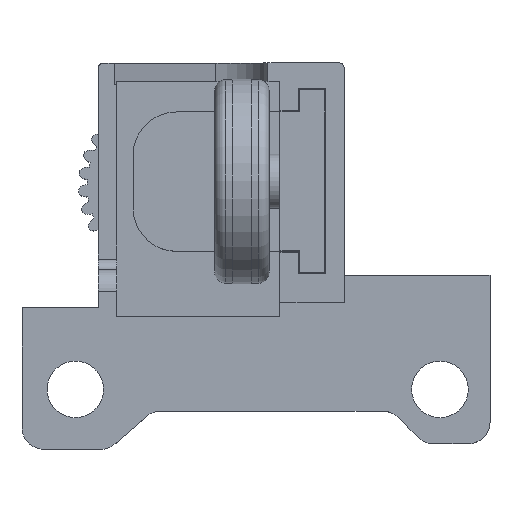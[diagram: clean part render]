
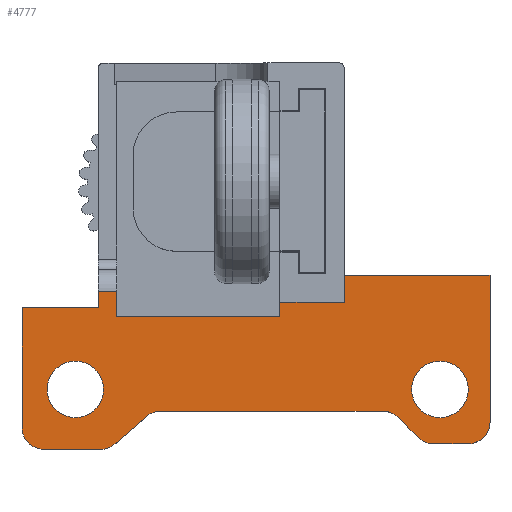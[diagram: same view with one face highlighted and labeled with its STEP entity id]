
A CAD part, top view. The second image highlights one B-rep face of the part: STEP entity #4777.
In plain terms, the highlighted planar face has unit normal (0, 0, 1).
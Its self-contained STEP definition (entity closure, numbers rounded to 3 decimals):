
#35=LINE('',#7300,#391);
#67=LINE('',#7372,#423);
#83=LINE('',#7407,#439);
#85=LINE('',#7414,#441);
#89=LINE('',#7425,#445);
#96=LINE('',#7444,#452);
#100=LINE('',#7456,#456);
#104=LINE('',#7468,#460);
#108=LINE('',#7480,#464);
#112=LINE('',#7492,#468);
#116=LINE('',#7504,#472);
#121=LINE('',#7519,#477);
#154=LINE('',#7604,#510);
#165=LINE('',#7627,#521);
#189=LINE('',#7788,#545);
#200=LINE('',#7814,#556);
#391=VECTOR('',#5642,1.3);
#423=VECTOR('',#5700,2.3);
#439=VECTOR('',#5728,1.7);
#441=VECTOR('',#5736,5.9);
#445=VECTOR('',#5744,7.);
#452=VECTOR('',#5757,13.5);
#456=VECTOR('',#5769,3.172);
#460=VECTOR('',#5781,2.586);
#464=VECTOR('',#5793,20.42);
#468=VECTOR('',#5805,3.812);
#472=VECTOR('',#5817,5.249);
#477=VECTOR('',#5832,11.);
#510=VECTOR('',#5895,2.5);
#521=VECTOR('',#5916,1.5);
#545=VECTOR('',#6154,15.);
#556=VECTOR('',#6187,13.4);
#938=FACE_BOUND('',#1350,.T.);
#939=FACE_BOUND('',#1351,.T.);
#1062=FACE_OUTER_BOUND('',#1349,.T.);
#1349=EDGE_LOOP('',(#3601,#3602,#3603,#3604,#3605,#3606,#3607,#3608,#3609,
#3610,#3611,#3612,#3613,#3614,#3615,#3616,#3617,#3618,#3619,#3620,#3621,
#3622));
#1350=EDGE_LOOP('',(#3623));
#1351=EDGE_LOOP('',(#3624));
#1550=CIRCLE('',#4966,2.6);
#1552=CIRCLE('',#4969,2.6);
#1564=CIRCLE('',#5001,2.);
#1566=CIRCLE('',#5005,2.);
#1568=CIRCLE('',#5009,2.);
#1570=CIRCLE('',#5013,2.);
#1572=CIRCLE('',#5017,2.);
#1574=CIRCLE('',#5021,2.);
#1922=VERTEX_POINT('',#7288);
#1924=VERTEX_POINT('',#7293);
#1926=VERTEX_POINT('',#7298);
#1927=VERTEX_POINT('',#7299);
#1953=VERTEX_POINT('',#7369);
#1954=VERTEX_POINT('',#7371);
#1967=VERTEX_POINT('',#7405);
#1969=VERTEX_POINT('',#7413);
#1973=VERTEX_POINT('',#7422);
#1974=VERTEX_POINT('',#7424);
#1982=VERTEX_POINT('',#7441);
#1983=VERTEX_POINT('',#7443);
#1985=VERTEX_POINT('',#7449);
#1987=VERTEX_POINT('',#7455);
#1989=VERTEX_POINT('',#7461);
#1991=VERTEX_POINT('',#7467);
#1993=VERTEX_POINT('',#7473);
#1995=VERTEX_POINT('',#7479);
#1997=VERTEX_POINT('',#7485);
#1999=VERTEX_POINT('',#7491);
#2001=VERTEX_POINT('',#7497);
#2003=VERTEX_POINT('',#7503);
#2005=VERTEX_POINT('',#7509);
#2045=VERTEX_POINT('',#7603);
#2402=EDGE_CURVE('',#1922,#1922,#1550,.T.);
#2404=EDGE_CURVE('',#1924,#1924,#1552,.T.);
#2406=EDGE_CURVE('',#1926,#1927,#35,.T.);
#2441=EDGE_CURVE('',#1954,#1953,#67,.T.);
#2459=EDGE_CURVE('',#1953,#1967,#83,.T.);
#2462=EDGE_CURVE('',#1969,#1926,#85,.T.);
#2467=EDGE_CURVE('',#1973,#1974,#89,.T.);
#2476=EDGE_CURVE('',#1982,#1983,#96,.T.);
#2479=EDGE_CURVE('',#1985,#1983,#1564,.T.);
#2482=EDGE_CURVE('',#1985,#1987,#100,.T.);
#2485=EDGE_CURVE('',#1989,#1987,#1566,.T.);
#2488=EDGE_CURVE('',#1989,#1991,#104,.T.);
#2491=EDGE_CURVE('',#1993,#1991,#1568,.T.);
#2494=EDGE_CURVE('',#1993,#1995,#108,.T.);
#2497=EDGE_CURVE('',#1997,#1995,#1570,.T.);
#2500=EDGE_CURVE('',#1997,#1999,#112,.T.);
#2503=EDGE_CURVE('',#2001,#1999,#1572,.T.);
#2506=EDGE_CURVE('',#2001,#2003,#116,.T.);
#2509=EDGE_CURVE('',#2005,#2003,#1574,.T.);
#2514=EDGE_CURVE('',#2005,#1973,#121,.T.);
#2555=EDGE_CURVE('',#2045,#1969,#154,.T.);
#2568=EDGE_CURVE('',#1967,#1974,#165,.T.);
#2651=EDGE_CURVE('',#1927,#1954,#189,.T.);
#2664=EDGE_CURVE('',#2045,#1982,#200,.T.);
#3601=ORIENTED_EDGE('',*,*,#2664,.F.);
#3602=ORIENTED_EDGE('',*,*,#2555,.T.);
#3603=ORIENTED_EDGE('',*,*,#2462,.T.);
#3604=ORIENTED_EDGE('',*,*,#2406,.T.);
#3605=ORIENTED_EDGE('',*,*,#2651,.T.);
#3606=ORIENTED_EDGE('',*,*,#2441,.T.);
#3607=ORIENTED_EDGE('',*,*,#2459,.T.);
#3608=ORIENTED_EDGE('',*,*,#2568,.T.);
#3609=ORIENTED_EDGE('',*,*,#2467,.F.);
#3610=ORIENTED_EDGE('',*,*,#2514,.F.);
#3611=ORIENTED_EDGE('',*,*,#2509,.T.);
#3612=ORIENTED_EDGE('',*,*,#2506,.F.);
#3613=ORIENTED_EDGE('',*,*,#2503,.T.);
#3614=ORIENTED_EDGE('',*,*,#2500,.F.);
#3615=ORIENTED_EDGE('',*,*,#2497,.T.);
#3616=ORIENTED_EDGE('',*,*,#2494,.F.);
#3617=ORIENTED_EDGE('',*,*,#2491,.T.);
#3618=ORIENTED_EDGE('',*,*,#2488,.F.);
#3619=ORIENTED_EDGE('',*,*,#2485,.T.);
#3620=ORIENTED_EDGE('',*,*,#2482,.F.);
#3621=ORIENTED_EDGE('',*,*,#2479,.T.);
#3622=ORIENTED_EDGE('',*,*,#2476,.F.);
#3623=ORIENTED_EDGE('',*,*,#2402,.F.);
#3624=ORIENTED_EDGE('',*,*,#2404,.F.);
#4630=PLANE('',#5161);
#4777=ADVANCED_FACE('',(#1062,#938,#939),#4630,.T.);
#4966=AXIS2_PLACEMENT_3D('',#7289,#5630,#5631);
#4969=AXIS2_PLACEMENT_3D('',#7294,#5636,#5637);
#5001=AXIS2_PLACEMENT_3D('',#7450,#5763,#5764);
#5005=AXIS2_PLACEMENT_3D('',#7462,#5775,#5776);
#5009=AXIS2_PLACEMENT_3D('',#7474,#5787,#5788);
#5013=AXIS2_PLACEMENT_3D('',#7486,#5799,#5800);
#5017=AXIS2_PLACEMENT_3D('',#7498,#5811,#5812);
#5021=AXIS2_PLACEMENT_3D('',#7510,#5823,#5824);
#5161=AXIS2_PLACEMENT_3D('',#7813,#6185,#6186);
#5630=DIRECTION('center_axis',(0.,0.,
1.));
#5631=DIRECTION('ref_axis',(1.,0.,0.));
#5636=DIRECTION('center_axis',(0.,0.,
1.));
#5637=DIRECTION('ref_axis',(1.,0.,0.));
#5642=DIRECTION('',(0.,-1.,0.));
#5700=DIRECTION('',(0.,1.,0.));
#5728=DIRECTION('',(-1.,0.,0.));
#5736=DIRECTION('',(-1.,0.,0.));
#5744=DIRECTION('',(1.,0.,0.));
#5757=DIRECTION('',(0.,-1.,0.));
#5763=DIRECTION('center_axis',(0.,0.,
1.));
#5764=DIRECTION('ref_axis',(0.707,-0.707,0.));
#5769=DIRECTION('',(-1.,0.,0.));
#5775=DIRECTION('center_axis',(0.,0.,
1.));
#5776=DIRECTION('ref_axis',(-0.383,-0.924,0.));
#5781=DIRECTION('',(-0.707,0.707,0.));
#5787=DIRECTION('center_axis',(0.,0.,
-1.));
#5788=DIRECTION('ref_axis',(0.383,0.924,0.));
#5793=DIRECTION('',(-1.,0.,0.));
#5799=DIRECTION('center_axis',(0.,0.,
-1.));
#5800=DIRECTION('ref_axis',(-0.352,0.936,0.));
#5805=DIRECTION('',(-0.753,-0.659,0.));
#5811=DIRECTION('center_axis',(0.,0.,
1.));
#5812=DIRECTION('ref_axis',(0.352,-0.936,0.));
#5817=DIRECTION('',(-1.,0.,0.));
#5823=DIRECTION('center_axis',(0.,0.,
1.));
#5824=DIRECTION('ref_axis',(-0.707,-0.707,0.));
#5832=DIRECTION('',(0.,1.,0.));
#5895=DIRECTION('',(0.,-1.,0.));
#5916=DIRECTION('',(0.,-1.,0.));
#6154=DIRECTION('',(-1.,0.,0.));
#6185=DIRECTION('center_axis',(0.,0.,
1.));
#6186=DIRECTION('ref_axis',(0.,-1.,0.));
#6187=DIRECTION('',(1.,0.,0.));
#7288=CARTESIAN_POINT('',(28.8,-5.,84.3));
#7289=CARTESIAN_POINT('Origin',(31.4,-5.,84.3));
#7293=CARTESIAN_POINT('',(-4.7,-5.,84.3));
#7294=CARTESIAN_POINT('Origin',(-2.1,-5.,84.3));
#7298=CARTESIAN_POINT('',(16.7,3.,84.3));
#7299=CARTESIAN_POINT('',(16.7,1.7,84.3));
#7300=CARTESIAN_POINT('',(16.7,0.85,84.3));
#7369=CARTESIAN_POINT('',(1.7,4.,84.3));
#7371=CARTESIAN_POINT('',(1.7,1.7,84.3));
#7372=CARTESIAN_POINT('',(1.7,14.65,84.3));
#7405=CARTESIAN_POINT('',(0.,4.,84.3));
#7407=CARTESIAN_POINT('',(0.,4.,84.3));
#7413=CARTESIAN_POINT('',(22.6,3.,84.3));
#7414=CARTESIAN_POINT('',(16.196,3.,84.3));
#7422=CARTESIAN_POINT('',(-7.,2.5,84.3));
#7424=CARTESIAN_POINT('',(0.,2.5,84.3));
#7425=CARTESIAN_POINT('',(-7.,2.5,84.3));
#7441=CARTESIAN_POINT('',(36.,5.5,84.3));
#7443=CARTESIAN_POINT('',(36.,-8.,84.3));
#7444=CARTESIAN_POINT('',(36.,5.5,84.3));
#7449=CARTESIAN_POINT('',(34.,-10.,84.3));
#7450=CARTESIAN_POINT('Origin',(34.,-8.,84.3));
#7455=CARTESIAN_POINT('',(30.828,-10.,84.3));
#7456=CARTESIAN_POINT('',(36.,-10.,84.3));
#7461=CARTESIAN_POINT('',(29.414,-9.414,84.3));
#7462=CARTESIAN_POINT('Origin',(30.828,-8.,84.3));
#7467=CARTESIAN_POINT('',(27.586,-7.586,84.3));
#7468=CARTESIAN_POINT('',(30.,-10.,84.3));
#7473=CARTESIAN_POINT('',(26.172,-7.,84.3));
#7474=CARTESIAN_POINT('Origin',(26.172,-9.,84.3));
#7479=CARTESIAN_POINT('',(5.751,-7.,84.3));
#7480=CARTESIAN_POINT('',(27.,-7.,84.3));
#7485=CARTESIAN_POINT('',(4.434,-7.495,84.3));
#7486=CARTESIAN_POINT('Origin',(5.751,-9.,84.3));
#7491=CARTESIAN_POINT('',(1.566,-10.005,84.3));
#7492=CARTESIAN_POINT('',(5.,-7.,84.3));
#7497=CARTESIAN_POINT('',(0.249,-10.5,84.3));
#7498=CARTESIAN_POINT('Origin',(0.249,-8.5,84.3));
#7503=CARTESIAN_POINT('',(-5.,-10.5,84.3));
#7504=CARTESIAN_POINT('',(1.,-10.5,84.3));
#7509=CARTESIAN_POINT('',(-7.,-8.5,84.3));
#7510=CARTESIAN_POINT('Origin',(-5.,-8.5,84.3));
#7519=CARTESIAN_POINT('',(-7.,-10.5,84.3));
#7603=CARTESIAN_POINT('',(22.6,5.5,84.3));
#7604=CARTESIAN_POINT('',(22.6,0.13,84.3));
#7627=CARTESIAN_POINT('',(0.,15.5,84.3));
#7788=CARTESIAN_POINT('',(0.85,1.7,84.3));
#7813=CARTESIAN_POINT('Origin',(0.,6.,84.3));
#7814=CARTESIAN_POINT('',(22.6,5.5,84.3));
